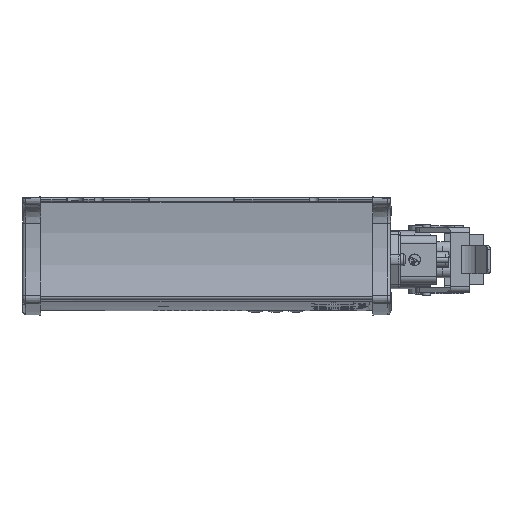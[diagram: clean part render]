
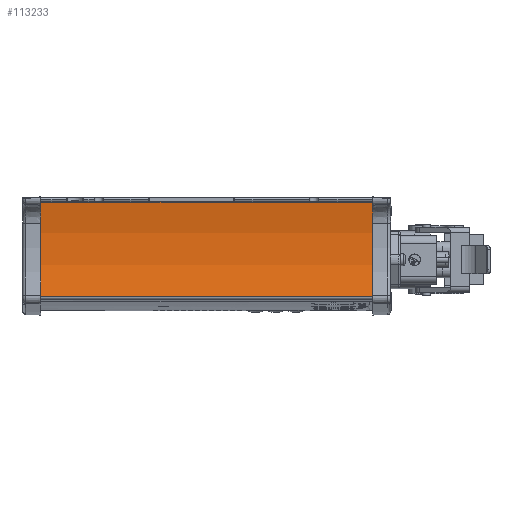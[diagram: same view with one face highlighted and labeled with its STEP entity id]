
A CAD part, left-side view. The second image highlights one B-rep face of the part: STEP entity #113233.
In plain terms, the highlighted cylindrical face has radius 109.9 mm (diameter 219.8 mm), a partial arc.
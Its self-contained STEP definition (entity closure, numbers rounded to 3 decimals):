
#457 = LINE ( 'NONE', #94619, #44755 ) ;
#8423 = DIRECTION ( 'NONE',  ( 0., 1., 0. ) ) ;
#9801 = CIRCLE ( 'NONE', #111041, 109.9 ) ;
#10614 = VERTEX_POINT ( 'NONE', #172056 ) ;
#11227 = ORIENTED_EDGE ( 'NONE', *, *, #16252, .F. ) ;
#13797 = DIRECTION ( 'NONE',  ( 0., 0., 1. ) ) ;
#16185 = CARTESIAN_POINT ( 'NONE',  ( -79.662, -1., -1.548 ) ) ;
#16252 = EDGE_CURVE ( 'NONE', #10614, #112754, #20738, .T. ) ;
#19633 = CIRCLE ( 'NONE', #143172, 109.9 ) ;
#20738 = LINE ( 'NONE', #124878, #120980 ) ;
#35060 = DIRECTION ( 'NONE',  ( 0., 1., 0. ) ) ;
#39304 = EDGE_CURVE ( 'NONE', #132653, #10614, #9801, .T. ) ;
#44755 = VECTOR ( 'NONE', #69848, 1000. ) ;
#50094 = EDGE_CURVE ( 'NONE', #132653, #108707, #457, .T. ) ;
#57036 = AXIS2_PLACEMENT_3D ( 'NONE', #103695, #35060, #88740 ) ;
#66508 = CARTESIAN_POINT ( 'NONE',  ( -187.95, -175., -20.3 ) ) ;
#66765 = EDGE_CURVE ( 'NONE', #108707, #112754, #19633, .T. ) ;
#69848 = DIRECTION ( 'NONE',  ( 0., 1., 0. ) ) ;
#76027 = ORIENTED_EDGE ( 'NONE', *, *, #39304, .F. ) ;
#77258 = CYLINDRICAL_SURFACE ( 'NONE', #57036, 109.9 ) ;
#86308 = CARTESIAN_POINT ( 'NONE',  ( -81.929, -1., -49.24 ) ) ;
#88740 = DIRECTION ( 'NONE',  ( 0., 0., -1. ) ) ;
#94619 = CARTESIAN_POINT ( 'NONE',  ( -79.662, -175., -1.548 ) ) ;
#103695 = CARTESIAN_POINT ( 'NONE',  ( -187.95, -175., -20.3 ) ) ;
#104234 = DIRECTION ( 'NONE',  ( 0., 0., 1. ) ) ;
#107490 = CARTESIAN_POINT ( 'NONE',  ( -79.662, -175., -1.548 ) ) ;
#108707 = VERTEX_POINT ( 'NONE', #16185 ) ;
#109067 = ORIENTED_EDGE ( 'NONE', *, *, #50094, .T. ) ;
#111041 = AXIS2_PLACEMENT_3D ( 'NONE', #66508, #146598, #13797 ) ;
#112754 = VERTEX_POINT ( 'NONE', #86308 ) ;
#113233 = ADVANCED_FACE ( 'NONE', ( #145808 ), #77258, .F. ) ;
#120980 = VECTOR ( 'NONE', #142112, 1000. ) ;
#124878 = CARTESIAN_POINT ( 'NONE',  ( -81.929, -175., -49.24 ) ) ;
#125391 = EDGE_LOOP ( 'NONE', ( #149813, #11227, #76027, #109067 ) ) ;
#132653 = VERTEX_POINT ( 'NONE', #107490 ) ;
#142112 = DIRECTION ( 'NONE',  ( 0., 1., 0. ) ) ;
#142889 = CARTESIAN_POINT ( 'NONE',  ( -187.95, -1., -20.3 ) ) ;
#143172 = AXIS2_PLACEMENT_3D ( 'NONE', #142889, #8423, #104234 ) ;
#145808 = FACE_OUTER_BOUND ( 'NONE', #125391, .T. ) ;
#146598 = DIRECTION ( 'NONE',  ( 0., 1., 0. ) ) ;
#149813 = ORIENTED_EDGE ( 'NONE', *, *, #66765, .T. ) ;
#172056 = CARTESIAN_POINT ( 'NONE',  ( -81.929, -175., -49.24 ) ) ;
